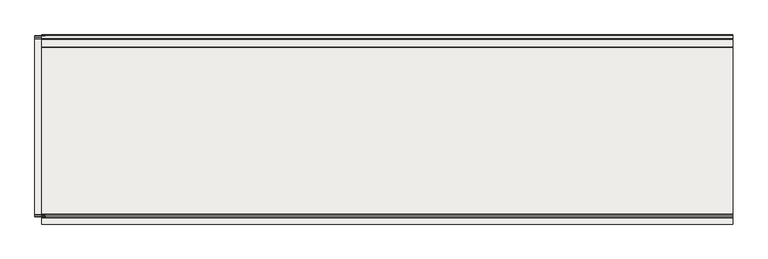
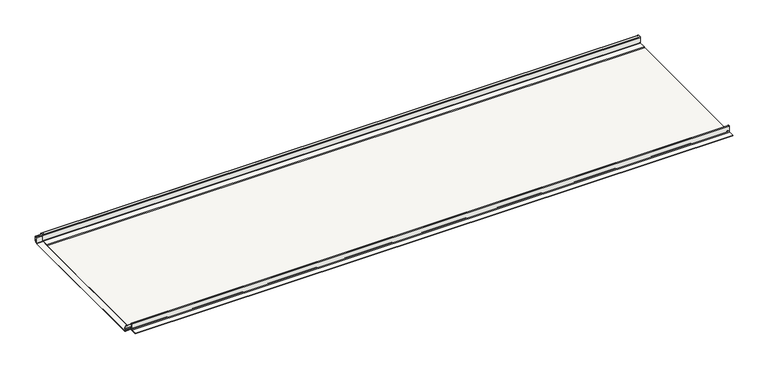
"""IFC4 building model written with IfcOpenShell, lengths in millimetres: covering geometry, Zintegrowany dach fotowoltaiczny FIT L.P (pojedynczy arkusz) : Zintegrowany dach fotowoltaiczny FIT L.P (pojedynczy arkusz)."""

from ifc_helpers import new_model, si_unit, point, frame, frame_2d, origin, place, context, project, spatial, polyline, circle_curve, trimmed, segment, composite_curve, outline, extrude, source, transform, mapped, element, save


def covering_ce6307ab(model_context):
    return source(origin(), model_context, "Body", "SweptSolid", [
        extrude(outline(composite_curve([segment(trimmed(circle_curve(frame_2d((1.8858378, 8.3696504)), 1.3), [point((2.9635359, 9.0966765))], [point((2.5164487, 7.2328434))], False, "CARTESIAN"), True, "CONTINUOUS"), segment(polyline([(2.5164487, 7.2328434), (-0.4684049, 6.0274031)]), True, "CONTINUOUS"), segment(trimmed(circle_curve(frame_2d((-0.2133471, 5.3958411)), 0.6811204), [point((-0.4684049, 6.0274031))], [point((-0.8105181, 5.0682564))], True, "CARTESIAN"), True, "CONTINUOUS"), segment(polyline([(-0.8105181, 5.0682564), (1.9697298, 0.0), (521.7638552, 0.0)]), True, "CONTINUOUS"), segment(trimmed(circle_curve(frame_2d((521.7638552, 0.82435)), 0.82435), [point((521.7638552, 0.0))], [point((522.5882052, 0.82435))], True, "CARTESIAN"), True, "CONTINUOUS"), segment(polyline([(522.5882052, 0.82435), (522.5882052, 20.0)]), True, "CONTINUOUS"), segment(trimmed(circle_curve(frame_2d((524.5882052, 20.0)), 2.0), [point((522.5882052, 20.0))], [point((524.5882052, 22.0))], False, "CARTESIAN"), True, "CONTINUOUS"), segment(polyline([(524.5882052, 22.0), (529.4117948, 22.0)]), True, "CONTINUOUS"), segment(trimmed(circle_curve(frame_2d((529.4117948, 20.0)), 2.0), [point((529.4117948, 22.0))], [point((531.4117948, 20.0))], False, "CARTESIAN"), True, "CONTINUOUS"), segment(polyline([(531.4117948, 20.0), (531.4117948, 7.9245569)]), True, "CONTINUOUS"), segment(trimmed(circle_curve(frame_2d((527.6117948, 7.9245569)), 3.8), [point((531.4117948, 7.9245569))], [point((529.3014079, 4.520852))], False, "CARTESIAN"), True, "CONTINUOUS"), segment(trimmed(circle_curve(frame_2d((529.8170787, 3.4820395)), 1.1597619), [point((529.3014079, 4.520852))], [point((528.671889, 3.2987691))], True, "CARTESIAN"), True, "CONTINUOUS"), segment(polyline([(528.671889, 3.2987691), (529.5083048, 1.7740238), (528.6315567, 1.2930739), (527.799575, 2.809736)]), True, "CONTINUOUS"), segment(trimmed(circle_curve(frame_2d((529.3170787, 3.4820395)), 1.6597619), [point((527.799575, 2.809736))], [point((528.5790904, 4.9687079))], False, "CARTESIAN"), True, "CONTINUOUS"), segment(trimmed(circle_curve(frame_2d((527.1117948, 7.9245569)), 3.3), [point((528.5790904, 4.9687079))], [point((530.4117948, 7.9245569))], True, "CARTESIAN"), True, "CONTINUOUS"), segment(polyline([(530.4117948, 7.9245569), (530.4117948, 19.5)]), True, "CONTINUOUS"), segment(trimmed(circle_curve(frame_2d((528.9117948, 19.5)), 1.5), [point((530.4117948, 19.5))], [point((528.9117948, 21.0))], True, "CARTESIAN"), True, "CONTINUOUS"), segment(polyline([(528.9117948, 21.0), (525.0882052, 21.0)]), True, "CONTINUOUS"), segment(trimmed(circle_curve(frame_2d((525.0882052, 19.5)), 1.5), [point((525.0882052, 21.0))], [point((523.5882052, 19.5))], True, "CARTESIAN"), True, "CONTINUOUS"), segment(polyline([(523.5882052, 19.5), (523.5882052, 0.7363796)]), True, "CONTINUOUS"), segment(trimmed(circle_curve(frame_2d((521.7893299, 0.8)), 1.8), [point((523.5882052, 0.7363796))], [point((521.7893299, -1.0))], False, "CARTESIAN"), True, "CONTINUOUS"), segment(polyline([(521.7893299, -1.0), (2.5617472, -1.0)]), True, "CONTINUOUS"), segment(trimmed(circle_curve(frame_2d((2.5617472, 1.0)), 2.0), [point((2.5617472, -1.0))], [point((0.808251, 0.0381003))], False, "CARTESIAN"), True, "CONTINUOUS"), segment(polyline([(0.808251, 0.0381003), (-1.8392101, 4.8642928)]), True, "CONTINUOUS"), segment(trimmed(circle_curve(frame_2d((-0.611401, 5.537821)), 1.4004126), [point((-1.8392101, 4.8642928))], [point((-1.1358108, 6.8363393))], False, "CARTESIAN"), True, "CONTINUOUS"), segment(polyline([(-1.1358108, 6.8363393), (2.2594808, 8.207536), (-3.4160384, 21.2740127)]), True, "CONTINUOUS"), segment(trimmed(circle_curve(frame_2d((-2.9435539, 21.4792398)), 0.5151308), [point((-3.4160384, 21.2740127))], [point((-2.5681305, 21.8319677))], False, "CARTESIAN"), True, "CONTINUOUS"), segment(polyline([(-2.5681305, 21.8319677), (2.9635359, 9.0966765)]), True, "CONTINUOUS")], self_intersect=False)), frame((-1585.0, 0.0, 0.0), z_axis=(1.0, 0.0, 0.0), x_axis=(0.0, 1.0, 0.0)), (0.0, 0.0, 1.0), 30.0),
        extrude(outline(composite_curve([segment(polyline([(-24.5882052, 1.0), (-7.3006701, 1.0)]), True, "CONTINUOUS"), segment(trimmed(circle_curve(frame_2d((-7.3006701, 3.8)), 2.8), [point((-7.3006701, 1.0))], [point((-4.5006701, 3.8))], True, "CARTESIAN"), True, "CONTINUOUS"), segment(polyline([(-4.5006701, 3.8), (-4.5006701, 21.5940327)]), True, "CONTINUOUS"), segment(trimmed(circle_curve(frame_2d((-2.8873432, 21.3837808)), 1.6269694), [point((-4.5006701, 21.5940327))], [point((-1.4716419, 22.185541))], False, "CARTESIAN"), True, "CONTINUOUS"), segment(polyline([(-1.4716419, 22.185541), (3.9852393, 9.622424)]), True, "CONTINUOUS"), segment(trimmed(circle_curve(frame_2d((2.0217948, 8.4245569)), 2.3), [point((3.9852393, 9.622424))], [point((3.075714, 6.3802344))], False, "CARTESIAN"), True, "CONTINUOUS"), segment(polyline([(3.075714, 6.3802344), (1.4030148, 5.7047108)]), True, "CONTINUOUS"), segment(trimmed(circle_curve(frame_2d((1.7401906, 4.8698125)), 0.9004126), [point((1.4030148, 5.7047108))], [point((0.9507556, 4.4367592))], True, "CARTESIAN"), True, "CONTINUOUS"), segment(polyline([(0.9507556, 4.4367592), (2.8360277, 1.0), (495.1728378, 1.0), (497.1728378, 3.0), (519.7638552, 3.0)]), True, "CONTINUOUS"), segment(trimmed(circle_curve(frame_2d((519.7638552, 3.82435)), 0.82435), [point((519.7638552, 3.0))], [point((520.5882052, 3.82435))], True, "CARTESIAN"), True, "CONTINUOUS"), segment(polyline([(520.5882052, 3.82435), (520.5882052, 22.5)]), True, "CONTINUOUS"), segment(trimmed(circle_curve(frame_2d((522.5882052, 22.5)), 2.0), [point((520.5882052, 22.5))], [point((522.5882052, 24.5))], False, "CARTESIAN"), True, "CONTINUOUS"), segment(polyline([(522.5882052, 24.5), (531.4117948, 24.5)]), True, "CONTINUOUS"), segment(trimmed(circle_curve(frame_2d((531.4117948, 22.5)), 2.0), [point((531.4117948, 24.5))], [point((533.4117948, 22.5))], False, "CARTESIAN"), True, "CONTINUOUS"), segment(polyline([(533.4117948, 22.5), (533.4117948, 8.4245569)]), True, "CONTINUOUS"), segment(trimmed(circle_curve(frame_2d((529.6117948, 8.4245569)), 3.8), [point((533.4117948, 8.4245569))], [point((531.3014079, 5.020852))], False, "CARTESIAN"), True, "CONTINUOUS"), segment(trimmed(circle_curve(frame_2d((531.8170787, 3.9820395)), 1.1597619), [point((531.3014079, 5.020852))], [point((530.671889, 3.7987691))], True, "CARTESIAN"), True, "CONTINUOUS"), segment(polyline([(530.671889, 3.7987691), (531.5083048, 2.2740238), (530.6315567, 1.7930739), (529.799575, 3.309736)]), True, "CONTINUOUS"), segment(trimmed(circle_curve(frame_2d((531.3170787, 3.9820395)), 1.6597619), [point((529.799575, 3.309736))], [point((530.5790904, 5.4687079))], False, "CARTESIAN"), True, "CONTINUOUS"), segment(trimmed(circle_curve(frame_2d((529.1117948, 8.4245569)), 3.3), [point((530.5790904, 5.4687079))], [point((532.4117948, 8.4245569))], True, "CARTESIAN"), True, "CONTINUOUS"), segment(polyline([(532.4117948, 8.4245569), (532.4117948, 22.0)]), True, "CONTINUOUS"), segment(trimmed(circle_curve(frame_2d((530.9117948, 22.0)), 1.5), [point((532.4117948, 22.0))], [point((530.9117948, 23.5))], True, "CARTESIAN"), True, "CONTINUOUS"), segment(polyline([(530.9117948, 23.5), (523.0882052, 23.5)]), True, "CONTINUOUS"), segment(trimmed(circle_curve(frame_2d((523.0882052, 22.0)), 1.5), [point((523.0882052, 23.5))], [point((521.5882052, 22.0))], True, "CARTESIAN"), True, "CONTINUOUS"), segment(polyline([(521.5882052, 22.0), (521.5882052, 3.7363796)]), True, "CONTINUOUS"), segment(trimmed(circle_curve(frame_2d((519.7893299, 3.8)), 1.8), [point((521.5882052, 3.7363796))], [point((519.7893299, 2.0))], False, "CARTESIAN"), True, "CONTINUOUS"), segment(polyline([(519.7893299, 2.0), (497.5870514, 2.0), (495.5870514, 0.0), (3.1965819, 0.0)]), True, "CONTINUOUS"), segment(trimmed(circle_curve(frame_2d((3.4199088, 1.9874922)), 2.0), [point((3.1965819, 0.0))], [point((1.7880605, 0.8311742))], False, "CARTESIAN"), True, "CONTINUOUS"), segment(polyline([(1.7880605, 0.8311742), (-0.1966367, 4.4491804)]), True, "CONTINUOUS"), segment(trimmed(circle_curve(frame_2d((1.0311724, 5.1227086)), 1.4004126), [point((-0.1966367, 4.4491804))], [point((0.5067626, 6.4212269))], False, "CARTESIAN"), True, "CONTINUOUS"), segment(polyline([(0.5067626, 6.4212269), (2.6524056, 7.28775)]), True, "CONTINUOUS"), segment(trimmed(circle_curve(frame_2d((2.0217948, 8.4245569)), 1.3), [point((2.6524056, 7.28775))], [point((3.0994928, 9.151583))], True, "CARTESIAN"), True, "CONTINUOUS"), segment(polyline([(3.0994928, 9.151583), (-2.3628688, 21.7273173)]), True, "CONTINUOUS"), segment(trimmed(circle_curve(frame_2d((-2.8873432, 21.3837808)), 0.6269694), [point((-2.3628688, 21.7273173))], [point((-3.5006701, 21.5138608))], True, "CARTESIAN"), True, "CONTINUOUS"), segment(polyline([(-3.5006701, 21.5138608), (-3.5006701, 3.8)]), True, "CONTINUOUS"), segment(trimmed(circle_curve(frame_2d((-7.3006701, 3.8)), 3.8), [point((-3.5006701, 3.8))], [point((-7.3006701, 0.0))], False, "CARTESIAN"), True, "CONTINUOUS"), segment(polyline([(-7.3006701, 0.0), (-24.5882052, 0.0), (-24.5882052, 1.0)]), True, "CONTINUOUS")], self_intersect=False)), frame((-1565.0, 0.0, 0.0), z_axis=(1.0, 0.0, 0.0), x_axis=(0.0, 1.0, 0.0)), (0.0, 0.0, 1.0), 2040.0),
    ])


if __name__ == "__main__":
    model = new_model("IFC4")
    model_context = context("Model", 3, world=origin())
    ifc_project = project(units=[si_unit("LENGTHUNIT", "METRE", prefix="MILLI")], contexts=[model_context])
    site = spatial("IfcSite", under=ifc_project)
    building = spatial("IfcBuilding", under=site)
    placement = place(None, origin())
    covering_shape = covering_ce6307ab(model_context)
    element("IfcCovering", 1, ObjectType="Zintegrowany dach fotowoltaiczny FIT L.P (pojedynczy arkusz) : Zintegrowany dach fotowoltaiczny FIT L.P (pojedynczy arkusz)", at=placement, inside=building, context=model_context, shape_type="MappedRepresentation", body=[
        mapped(covering_shape, transform((0.0, 0.0, 0.0), x_axis=(1.0, 0.0, 0.0), y_axis=(0.0, 1.0, 0.0), z_axis=(0.0, 0.0, 1.0))),
    ])
    save(model, "model.ifc")
